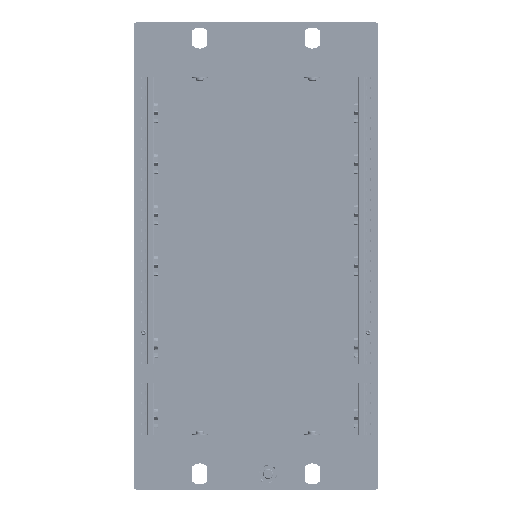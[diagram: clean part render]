
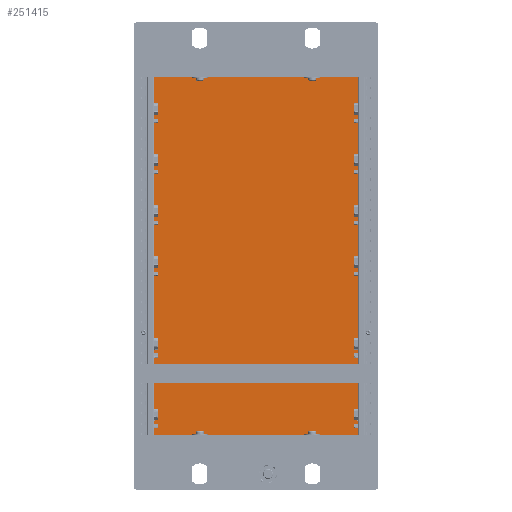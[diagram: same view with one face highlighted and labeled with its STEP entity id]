
A CAD part, top view. The second image highlights one B-rep face of the part: STEP entity #251415.
In plain terms, the highlighted planar face has unit normal (0, 0, 1).
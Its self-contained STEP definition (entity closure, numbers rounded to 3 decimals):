
#34773=FACE_OUTER_BOUND('',#49794,.T.);
#49794=EDGE_LOOP('',(#215457,#215458,#215459,#215460));
#75345=LINE('',#435608,#96546);
#75346=LINE('',#435610,#96547);
#75347=LINE('',#435612,#96548);
#75348=LINE('',#435613,#96549);
#96546=VECTOR('',#339940,10.);
#96547=VECTOR('',#339941,10.);
#96548=VECTOR('',#339942,10.);
#96549=VECTOR('',#339943,10.);
#118510=VERTEX_POINT('',#435606);
#118511=VERTEX_POINT('',#435607);
#118512=VERTEX_POINT('',#435609);
#118513=VERTEX_POINT('',#435611);
#151789=EDGE_CURVE('',#118510,#118511,#75345,.T.);
#151790=EDGE_CURVE('',#118511,#118512,#75346,.T.);
#151791=EDGE_CURVE('',#118512,#118513,#75347,.T.);
#151792=EDGE_CURVE('',#118510,#118513,#75348,.T.);
#215457=ORIENTED_EDGE('',*,*,#151789,.T.);
#215458=ORIENTED_EDGE('',*,*,#151790,.T.);
#215459=ORIENTED_EDGE('',*,*,#151791,.T.);
#215460=ORIENTED_EDGE('',*,*,#151792,.F.);
#233501=PLANE('',#274586);
#251415=ADVANCED_FACE('',(#34773),#233501,.T.);
#274586=AXIS2_PLACEMENT_3D('',#435605,#339938,#339939);
#339938=DIRECTION('center_axis',(0.,0.,
1.));
#339939=DIRECTION('ref_axis',(1.,0.,0.));
#339940=DIRECTION('',(1.,0.,0.));
#339941=DIRECTION('',(0.,1.,0.));
#339942=DIRECTION('',(-1.,0.,0.));
#339943=DIRECTION('',(0.,1.,0.));
#435605=CARTESIAN_POINT('Origin',(4.446,154.805,25.252));
#435606=CARTESIAN_POINT('',(-55.454,64.305,25.252));
#435607=CARTESIAN_POINT('',(64.346,64.305,25.252));
#435608=CARTESIAN_POINT('',(-25.504,64.305,25.252));
#435609=CARTESIAN_POINT('',(64.346,245.305,25.252));
#435610=CARTESIAN_POINT('',(64.346,154.805,25.252));
#435611=CARTESIAN_POINT('',(-55.454,245.305,25.252));
#435612=CARTESIAN_POINT('',(-25.504,245.305,25.252));
#435613=CARTESIAN_POINT('',(-55.454,154.805,25.252));
